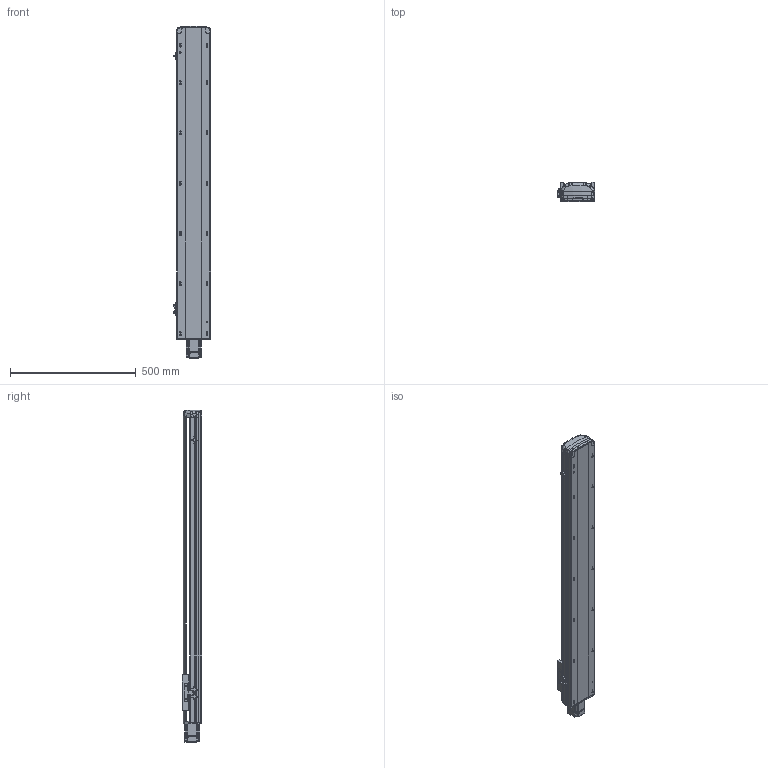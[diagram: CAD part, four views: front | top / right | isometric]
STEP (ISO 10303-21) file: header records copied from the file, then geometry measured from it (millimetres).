
FILE_DESCRIPTION (( 'STEP AP214' ), '1' );
FILE_NAME ('RTH14-XX-1000-E-M20-C4.STEP', '2025-10-24T09:15:04', ( 'Microsoft' ), ( 'Microsoft' ), 'SwSTEP 2.0', 'SolidWorks 2018', '' );
FILE_SCHEMA (( 'AUTOMOTIVE_DESIGN' ));
Length unit declared in the file: millimetre
Products named in the file (9): N_RTH14-GY-001P^RTH14-XX-XX-E-M20-C4; N_RTH13-E-008萇儂耜猾裔^RTH14-XX-XX-E-M20-C4; RTH14-XX-1000-E-M20-C4; N_RTH14-R-004-SFSR16賑釱^RTH14-XX-XX-E-M20-C4; N_OMRON EE-SX672 传感器^RTH14-XX-XX-E-M20-C4; N_MSMD022P1AA_200W^RTH14-XX-XX-E-M20-C4; N_RTH14-E-007P奻裔^RTH14-XX-XX-E-M20-C4; N_RTH13-L-012感应片（外置）^RTH14-XX-XX-E-M20-C4; N_RTH14-E-011P菁釱^RTH14-XX-XX-E-M20-C4
Assembly tree (10 placements, depth 2):
  RTH14-XX-1000-E-M20-C4
    N_RTH14-E-011P菁釱^RTH14-XX-XX-E-M20-C4
    N_RTH14-E-007P奻裔^RTH14-XX-XX-E-M20-C4
    N_MSMD022P1AA_200W^RTH14-XX-XX-E-M20-C4
    N_RTH13-L-012感应片（外置）^RTH14-XX-XX-E-M20-C4
    N_OMRON EE-SX672 传感器^RTH14-XX-XX-E-M20-C4  x3
    N_RTH13-E-008萇儂耜猾裔^RTH14-XX-XX-E-M20-C4
    N_RTH14-R-004-SFSR16賑釱^RTH14-XX-XX-E-M20-C4
    N_RTH14-GY-001P^RTH14-XX-XX-E-M20-C4
Bounding box: 148.5 x 78.03 x 1322.49 mm (x, y, z)
Volume: 5364748.3 mm3; surface area: 1182718.1 mm2
Topology: 10 solids, 10 shells, 1895 faces, 5338 edges, 3508 vertices
Faces by surface type: plane 981, cylinder 524, bspline 341, cone 45, torus 4
Entity records: 58292 total; most frequent: CARTESIAN_POINT 23120, ORIENTED_EDGE 7744, DIRECTION 6299, EDGE_CURVE 3872, VERTEX_POINT 2544, VECTOR 2195, LINE 2195, AXIS2_PLACEMENT_3D 2052
